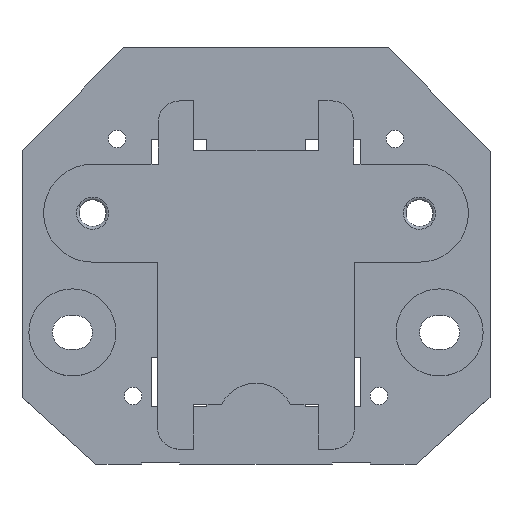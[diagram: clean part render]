
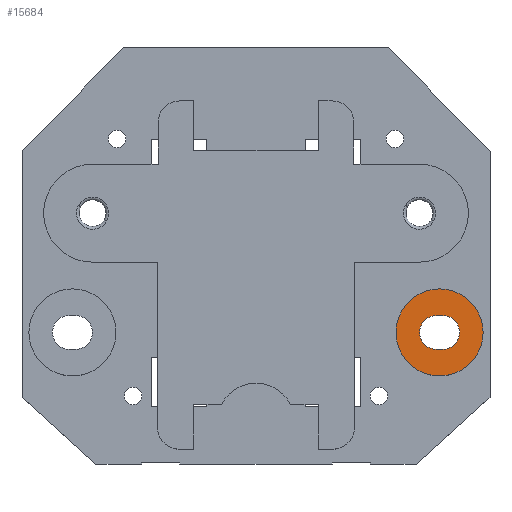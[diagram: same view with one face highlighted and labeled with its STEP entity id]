
A CAD part, top view. The second image highlights one B-rep face of the part: STEP entity #15684.
In plain terms, the highlighted planar face has unit normal (0, 0, 1) as drawn and (0, 0, -1) by its records, which use the part's own axes.
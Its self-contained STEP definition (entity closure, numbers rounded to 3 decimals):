
#15612=AXIS2_PLACEMENT_3D('Circle Axis2P3D',#15610,#15611,$) ;
#15631=AXIS2_PLACEMENT_3D('Circle Axis2P3D',#15629,#15630,$) ;
#15644=AXIS2_PLACEMENT_3D('Plane Axis2P3D',#15641,#15642,#15643) ;
#15652=AXIS2_PLACEMENT_3D('Circle Axis2P3D',#15650,#15651,$) ;
#15668=AXIS2_PLACEMENT_3D('Circle Axis2P3D',#15666,#15667,$) ;
#15607=CARTESIAN_POINT('Vertex',(-8.,0.,0.)) ;
#15610=CARTESIAN_POINT('Axis2P3D Location',(0.,0.,0.)) ;
#15614=CARTESIAN_POINT('Vertex',(8.,0.,0.)) ;
#15629=CARTESIAN_POINT('Axis2P3D Location',(0.,0.,0.)) ;
#15641=CARTESIAN_POINT('Axis2P3D Location',(0.,0.,0.)) ;
#15650=CARTESIAN_POINT('Axis2P3D Location',(0.,-0.58,0.)) ;
#15654=CARTESIAN_POINT('Vertex',(3.1,-0.58,0.)) ;
#15656=CARTESIAN_POINT('Vertex',(-3.1,-0.58,0.)) ;
#15659=CARTESIAN_POINT('Line Origine',(3.1,0.,0.)) ;
#15663=CARTESIAN_POINT('Vertex',(3.1,0.58,0.)) ;
#15666=CARTESIAN_POINT('Axis2P3D Location',(0.,0.58,0.)) ;
#15670=CARTESIAN_POINT('Vertex',(-3.1,0.58,0.)) ;
#15673=CARTESIAN_POINT('Line Origine',(-3.1,0.,0.)) ;
#15611=DIRECTION('Axis2P3D Direction',(0.,0.,1.)) ;
#15630=DIRECTION('Axis2P3D Direction',(0.,0.,1.)) ;
#15642=DIRECTION('Axis2P3D Direction',(0.,0.,1.)) ;
#15643=DIRECTION('Axis2P3D XDirection',(1.,0.,0.)) ;
#15651=DIRECTION('Axis2P3D Direction',(0.,0.,1.)) ;
#15660=DIRECTION('Vector Direction',(0.,1.,0.)) ;
#15667=DIRECTION('Axis2P3D Direction',(0.,0.,1.)) ;
#15674=DIRECTION('Vector Direction',(0.,-1.,0.)) ;
#15661=VECTOR('Line Direction',#15660,1.) ;
#15675=VECTOR('Line Direction',#15674,1.) ;
#15647=ORIENTED_EDGE('',*,*,#15616,.F.) ;
#15648=ORIENTED_EDGE('',*,*,#15633,.F.) ;
#15679=ORIENTED_EDGE('',*,*,#15658,.F.) ;
#15680=ORIENTED_EDGE('',*,*,#15665,.F.) ;
#15681=ORIENTED_EDGE('',*,*,#15672,.F.) ;
#15682=ORIENTED_EDGE('',*,*,#15677,.F.) ;
#15683=FACE_BOUND('',#15678,.T.) ;
#15684=ADVANCED_FACE('PartBody',(#15649,#15683),#15645,.F.) ;
#15613=CIRCLE('generated circle',#15612,8.) ;
#15632=CIRCLE('generated circle',#15631,8.) ;
#15653=CIRCLE('generated circle',#15652,3.1) ;
#15669=CIRCLE('generated circle',#15668,3.1) ;
#15616=EDGE_CURVE('',#15608,#15615,#15613,.T.) ;
#15633=EDGE_CURVE('',#15615,#15608,#15632,.T.) ;
#15658=EDGE_CURVE('',#15655,#15657,#15653,.F.) ;
#15665=EDGE_CURVE('',#15664,#15655,#15662,.F.) ;
#15672=EDGE_CURVE('',#15671,#15664,#15669,.F.) ;
#15677=EDGE_CURVE('',#15657,#15671,#15676,.F.) ;
#15646=EDGE_LOOP('',(#15647,#15648)) ;
#15678=EDGE_LOOP('',(#15679,#15680,#15681,#15682)) ;
#15649=FACE_OUTER_BOUND('',#15646,.T.) ;
#15662=LINE('Line',#15659,#15661) ;
#15676=LINE('Line',#15673,#15675) ;
#15645=PLANE('Plane',#15644) ;
#15608=VERTEX_POINT('',#15607) ;
#15615=VERTEX_POINT('',#15614) ;
#15655=VERTEX_POINT('',#15654) ;
#15657=VERTEX_POINT('',#15656) ;
#15664=VERTEX_POINT('',#15663) ;
#15671=VERTEX_POINT('',#15670) ;
